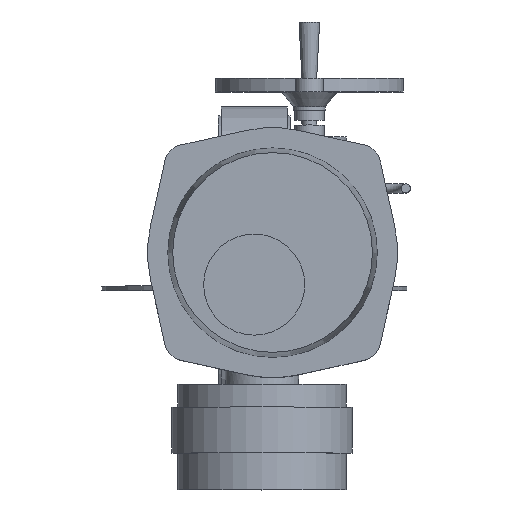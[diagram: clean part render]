
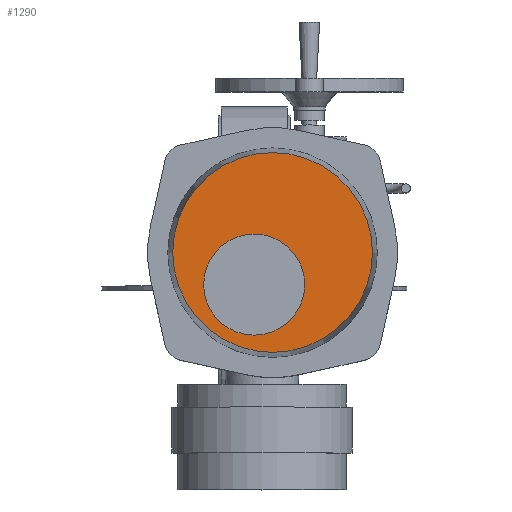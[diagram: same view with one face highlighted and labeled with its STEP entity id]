
A CAD part, top view. The second image highlights one B-rep face of the part: STEP entity #1290.
In plain terms, the highlighted planar face has unit normal (0, 0, 1).
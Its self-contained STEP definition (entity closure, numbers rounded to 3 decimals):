
#1290=ADVANCED_FACE('',(#2793,#2795),#2797,.T.);
#2793=FACE_BOUND('',#2794,.T.);
#2794=EDGE_LOOP('',(#3735));
#2795=FACE_BOUND('',#2796,.T.);
#2796=EDGE_LOOP('',(#3736));
#2797=PLANE('',#2798);
#2798=AXIS2_PLACEMENT_3D('',#2799,#2800,#2801);
#2799=CARTESIAN_POINT('',(20.,38.,659.));
#2800=DIRECTION('',(0.,0.,1.));
#2801=DIRECTION('',(-1.,0.,0.));
#3735=ORIENTED_EDGE('',*,*,#4185,.T.);
#3736=ORIENTED_EDGE('',*,*,#4196,.F.);
#4185=EDGE_CURVE('',#4777,#4777,#4778,.T.);
#4196=EDGE_CURVE('',#4799,#4799,#4800,.T.);
#4777=VERTEX_POINT('',#7759);
#4778=CIRCLE('',#7760,108.707);
#4799=VERTEX_POINT('',#7906);
#4800=CIRCLE('',#7907,55.);
#7759=CARTESIAN_POINT('',(-88.707,38.,659.));
#7760=AXIS2_PLACEMENT_3D('',#7761,#7762,#7763);
#7761=CARTESIAN_POINT('',(20.,38.,659.));
#7762=DIRECTION('',(0.,0.,1.));
#7763=DIRECTION('',(-1.,0.,0.));
#7906=CARTESIAN_POINT('',(-55.,3.,659.));
#7907=AXIS2_PLACEMENT_3D('',#7908,#7909,#7910);
#7908=CARTESIAN_POINT('',(0.,3.,659.));
#7909=DIRECTION('',(0.,0.,1.));
#7910=DIRECTION('',(-1.,0.,0.));
